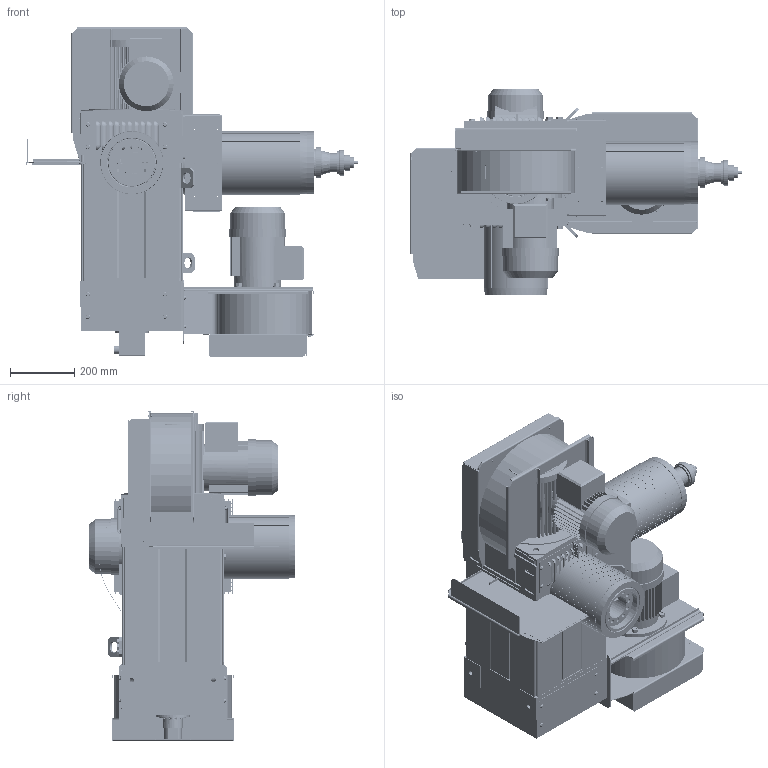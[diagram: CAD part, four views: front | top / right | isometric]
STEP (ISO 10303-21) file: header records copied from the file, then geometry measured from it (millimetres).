
FILE_DESCRIPTION( ( 'Unknown' ), '1' );
FILE_NAME( 'Z:/PLANOLS/Planols vigents/MAC Q/MAC160/QT/Dimensiones Motor/ed02/MAC-QT 160 L B5.stp', 'Unknown', ( 'Unknown' ), ( 'Unknown' ), 'XStep 1.0', 'Unknown', ' ' );
FILE_SCHEMA( ( 'automotive_design' ) );
Length unit declared in the file: millimetre
Products named in the file (108): Assem1; Assem2; Assem3; Assem4; Assem5; Assem6; Assem7; Assem8; Assem9; Assem10; Assem11; Assem12; Assem13; Assem14; Assem15; paquet rotor L-oa0; barres i anells L-oa1; 31T16506 fase 1-oa3; Angular 1-oa5; Angular 2-oa6; Angular 3-oa7; Angular 4-oa8; Angular 6-oa9; Angular 7-oa10; 381800-10; 381800-2-oa11; 381800-3; 381800-4-oa12; 381800-5-oa13; 381800-5-oa14; 381800-8; 381800-8-oa15; 38118011; 381800-9; 381800-1; 381800-7; 381800-6; 381800-11; 45916004; NM75x2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
Bounding box: 1031.98 x 640 x 1024.5 mm (x, y, z)
Volume: 200507277.3 mm3; surface area: 44506145.7 mm2
Topology: 451 solids, 451 shells, 40256 faces, 117563 edges, 77136 vertices
Faces by surface type: plane 30889, cylinder 8293, cone 388, torus 300, sphere 292, bspline 94
Full cylindrical faces by diameter (mm): 2.459 x15, 3 x7, 3.242 x270, 4 x9, 4.134 x135, 4.6 x21, 4.917 x99, 5 x30, 5.25 x7, 6 x77, 6.647 x50, 7 x140, 8 x32, 8.376 x24, 8.5 x20, 9 x91, 9.5 x48, 10 x60, 10.106 x24, 10.5 x9, 11 x3, 11.835 x252, 12 x173, 12.5 x13, 13 x15, 13.835 x5, 14 x30, 15 x36, 16 x16, 19 x12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
Entity records: 391450 total; most frequent: CARTESIAN_POINT 74333, ORIENTED_EDGE 65986, DIRECTION 61545, EDGE_CURVE 32993, LINE 27147, VECTOR 27147, VERTEX_POINT 22039, AXIS2_PLACEMENT_3D 17199
